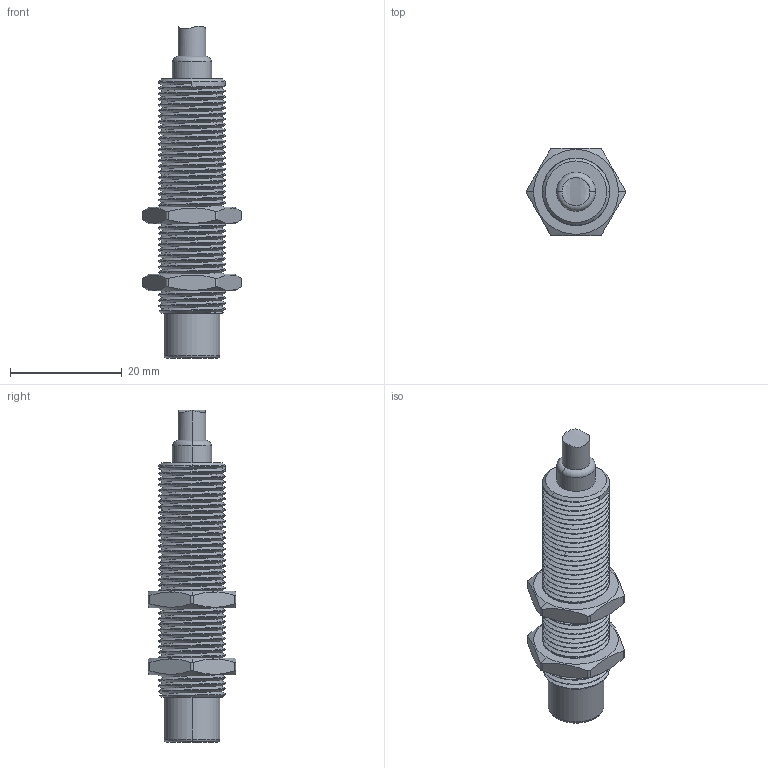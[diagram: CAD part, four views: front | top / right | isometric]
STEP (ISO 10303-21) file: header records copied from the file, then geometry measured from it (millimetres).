
FILE_DESCRIPTION((''),'2;1');
FILE_NAME('M12_FQP_L50_ASM','2019-07-16T',('Administrator'),(''),'PRO/ENGINEER BY PARAMETRIC TECHNOLOGY CORPORATION, 2012130','PRO/ENGINEER BY PARAMETRIC TECHNOLOGY CORPORATION, 2012130','');
FILE_SCHEMA(('AUTOMOTIVE_DESIGN { 1 0 10303 214 1 1 1 1 }'));
Length unit declared in the file: millimetre
Products named in the file (3): M12_FQP_L50; M12_LM; M12_FQP_L50_ASM
Assembly tree (3 placements, depth 2):
  M12_FQP_L50_ASM
    M12_FQP_L50
    M12_LM  x2
Bounding box: 17.85 x 15.59 x 59.44 mm (x, y, z)
Volume: 5733.8 mm3; surface area: 4441.1 mm2
Topology: 3 solids, 3 shells, 177 faces, 487 edges, 318 vertices
Faces by surface type: cylinder 112, bspline 26, plane 23, cone 11, torus 4, extrusion 1
Entity records: 16326 total; most frequent: CARTESIAN_POINT 12561, ORIENTED_EDGE 824, DIRECTION 461, EDGE_CURVE 412, VERTEX_POINT 268, B_SPLINE_CURVE_WITH_KNOTS 244, AXIS2_PLACEMENT_3D 160, EDGE_LOOP 154
